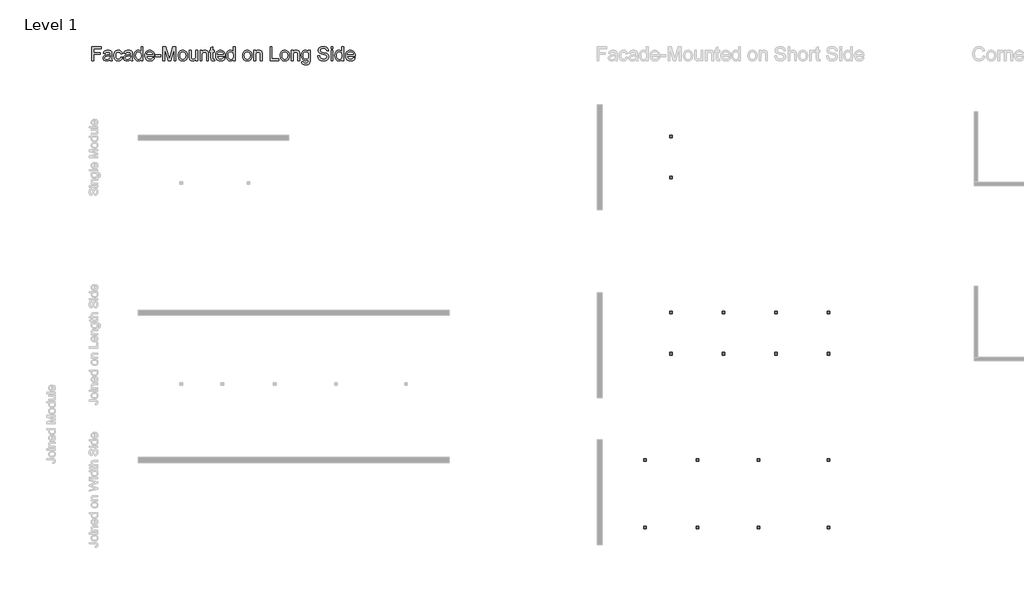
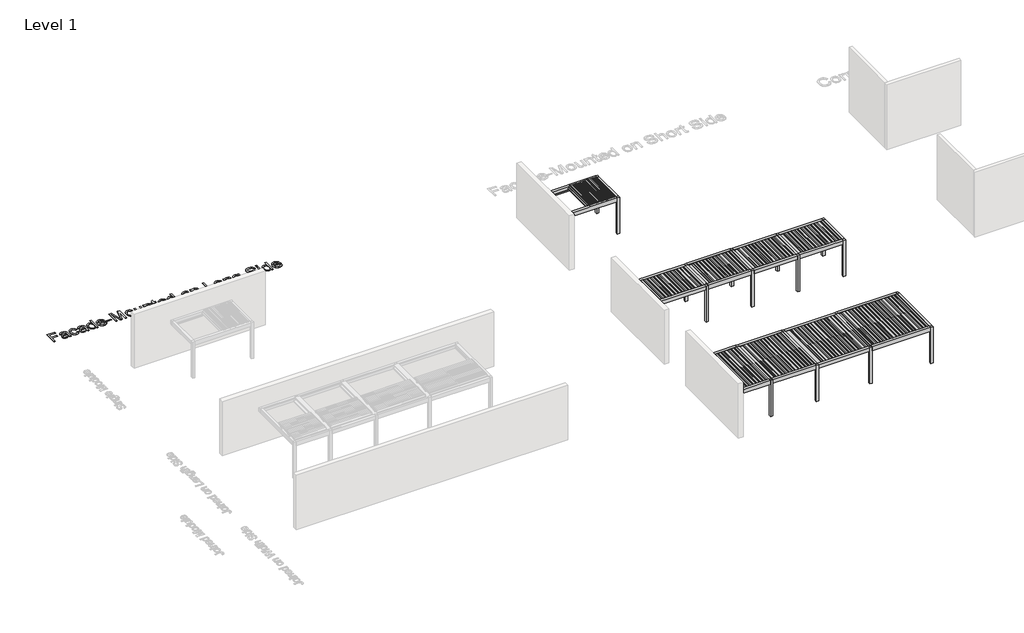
# One storey, part 19 of 69: 4 proxies.
"""IFC4 building model written with IfcOpenShell, lengths in millimetres."""

from ifc_helpers import new_model, si_unit, origin, origin_with_axes, place, context, project, spatial, polyline, outline, extrude, transform, mapped, element, save
from components import generic_models_a303e51f, generic_models_63c2b022, generic_models_a743d6f9, generic_models_ba1bd23f, generic_models_b816ea3c

model = new_model("IFC4")

# Units and contexts
model_context = context("Model", 3, world=origin())
ifc_project = project(units=[si_unit("LENGTHUNIT", "METRE", prefix="MILLI")], contexts=[model_context])

# Site, building, storey
site = spatial("IfcSite", under=ifc_project)
building = spatial("IfcBuilding", under=site)
storey = spatial("IfcBuildingStorey", under=building, Name="Level 1", Elevation=0.0)

# Proxies
placement = place(None, origin())
generic_models_shape = generic_models_a303e51f(model_context)
element("IfcBuildingElementProxy", 1, Name="Renson_Camargue_Skye_Facade-Mounted_Patio covers : Renson_Camargue_Skye_Facade-Mounted_Patio covers", ObjectType="Renson_Camargue_Skye_Facade-Mounted_Patio covers : Renson_Camargue_Skye_Facade-Mounted_Patio covers", at=placement, inside=storey, context=model_context, shape_type="MappedRepresentation", body=[
    mapped(generic_models_shape, transform((113691.3468184, -10675.9863343, 0.0), x_axis=(1.0, 0.0, 0.0), y_axis=(0.0, 1.0, 0.0), z_axis=(0.0, 0.0, 1.0))),
])
generic_models_2_shape = generic_models_63c2b022(model_context)
generic_models_3_shape = generic_models_a743d6f9(model_context)
element("IfcBuildingElementProxy", 2, Name="Renson_Camargue_Skye_Facade-Mounted_Patio covers : Renson_Camargue_Skye_Facade-Mounted_Patio covers", ObjectType="Renson_Camargue_Skye_Facade-Mounted_Patio covers : Renson_Camargue_Skye_Facade-Mounted_Patio covers", at=placement, inside=storey, context=model_context, shape_type="MappedRepresentation", body=[
    mapped(generic_models_2_shape, transform((113691.3468184, -20745.9863343, 0.0), x_axis=(1.0, 0.0, 0.0), y_axis=(0.0, 1.0, 0.0), z_axis=(0.0, 0.0, 1.0))),
    mapped(generic_models_3_shape, transform((113691.3468184, -20745.9863343, 0.0), x_axis=(1.0, 0.0, 0.0), y_axis=(0.0, 1.0, 0.0), z_axis=(0.0, 0.0, 1.0))),
])
generic_models_4_shape = generic_models_ba1bd23f(model_context)
generic_models_5_shape = generic_models_b816ea3c(model_context)
element("IfcBuildingElementProxy", 3, Name="Renson_Camargue_Skye_Facade-Mounted_Patio covers : Renson_Camargue_Skye_Facade-Mounted_Patio covers", ObjectType="Renson_Camargue_Skye_Facade-Mounted_Patio covers : Renson_Camargue_Skye_Facade-Mounted_Patio covers", at=placement, inside=storey, context=model_context, shape_type="MappedRepresentation", body=[
    mapped(generic_models_4_shape, transform((112941.3468184, -29920.5588086, 0.0), x_axis=(1.0, 0.0, 0.0), y_axis=(0.0, 1.0, 0.0), z_axis=(0.0, 0.0, 1.0))),
    mapped(generic_models_5_shape, transform((112941.3468184, -29920.5588086, 0.0), x_axis=(1.0, 0.0, 0.0), y_axis=(0.0, 1.0, 0.0), z_axis=(0.0, 0.0, 1.0))),
])
element("IfcBuildingElementProxy", 4, Name="800mm Arial", ObjectType="800mm Arial", at=placement, inside=storey, context=model_context, shape_type="SweptSolid", body=[
    extrude(outline(polyline([(82503.9214957, -5171.4138599), (82503.9214957, -4372.0251615), (83041.0107774, -4372.0251615), (83041.0107774, -4471.9487488), (82603.845083, -4471.9487488), (82603.845083, -4709.2672686), (82978.5585353, -4709.2672686), (82978.5585353, -4809.1908559), (82603.845083, -4809.1908559), (82603.845083, -5171.4138599), (82503.9214957, -5171.4138599)])), origin_with_axes(), (0.0, 0.0, 1.0), 5.0),
    extrude(outline(polyline([(83540.6287139, -5096.4711694), (83492.8869023, -5137.4066624), (83468.4853964, -5152.5684079), (83443.730157, -5164.1928194), (83392.0362895, -5178.9764361), (83336.6831109, -5183.9043083), (83292.1919873, -5180.9402663), (83253.1776325, -5172.0481404), (83219.6400467, -5157.2279307), (83191.5792297, -5136.479637), (83169.4221013, -5111.1206113), (83153.595581, -5082.4682057), (83144.0996688, -5050.5224202), (83140.9343647, -5015.2832547), (83145.7158645, -4973.8598535), (83160.0603638, -4936.2421359), (83182.186998, -4904.0401986), (83210.3149024, -4878.8641385), (83243.3706789, -4859.835721), (83280.2809298, -4846.0767114), (83366.7382524, -4831.0491406), (83468.9062171, -4815.2409169), (83540.0432241, -4796.7004075), (83540.6287139, -4774.4517963), (83538.9088377, -4750.2271571), (83533.7492091, -4729.8569922), (83525.1498281, -4713.3413016), (83513.1106947, -4700.6800854), (83492.3014125, -4688.0432645), (83466.9545846, -4679.0169639), (83437.0702109, -4673.6011835), (83402.6482916, -4671.7959234), (83343.1234984, -4676.6018186), (83320.0942341, -4682.6091876), (83301.5537247, -4691.0195042), (83286.318793, -4702.4914443), (83273.2062617, -4717.6836841), (83262.2161309, -4736.5962234), (83253.3484004, -4759.2290623), (83153.4248131, -4746.7386139), (83170.7699475, -4692.0929021), (83182.6444119, -4669.1612194), (83196.6534744, -4649.1569857), (83213.4009213, -4631.6776765), (83233.4905391, -4616.3207678), (83256.9223275, -4603.0862594), (83283.6962868, -4591.9741515), (83345.0995263, -4576.89779), (83415.5290665, -4571.8723361), (83483.0799486, -4576.3123002), (83536.6278671, -4589.6321924), (83577.0022658, -4609.6608216), (83605.0325885, -4634.2269965), (83623.6218887, -4664.5992783), (83635.6732197, -4702.0462281), (83639.3325308, -4736.5901245), (83640.5523012, -4789.479367), (83640.5523012, -4913.7983614), (83641.8208623, -5022.0895733), (83645.6265458, -5087.396078), (83653.1403312, -5130.307599), (83665.533198, -5171.4138599), (83565.6096107, -5171.4138599), (83549.6062237, -5136.6748002), (83540.6287139, -5096.4711694)]), holes=[polyline([(83540.6287139, -4896.6239948), (83473.4925536, -4913.2616624), (83379.4238641, -4927.2646261), (83327.5836241, -4934.9247839), (83293.4544496, -4943.4631764), (83271.0838613, -4954.5386912), (83254.5193799, -4969.810216), (83244.273309, -4988.1067713), (83240.857952, -5008.2573775), (83242.7181018, -5023.7850541), (83248.2985511, -5037.9709833), (83257.5993001, -5050.8151651), (83270.6203486, -5062.3175995), (83287.2397196, -5071.7952152), (83307.3354362, -5078.5649406), (83357.9559058, -5083.980721), (83411.6258014, -5078.0038463), (83436.11879, -5070.5327528), (83459.0504727, -5060.0732221), (83497.4976342, -5033.6529962), (83524.2350003, -5002.2073165), (83536.0911682, -4969.810216), (83540.0432241, -4924.922667), (83540.6287139, -4896.6239948)])]), origin_with_axes(), (0.0, 0.0, 1.0), 5.0),
    extrude(outline(polyline([(84152.660686, -4959.0762369), (84252.5842733, -4971.5666853), (84241.7161195, -5018.7169083), (84224.7247185, -5060.4391532), (84201.6100703, -5096.73342), (84172.3721749, -5127.5997088), (84138.2430005, -5152.2329711), (84100.4545149, -5169.8281584), (84059.0067184, -5180.3852708), (84013.8996107, -5183.9043083), (83957.8572619, -5178.9947326), (83907.6088222, -5164.2660056), (83863.1542917, -5139.7181273), (83824.4936703, -5105.3510976), (83793.2004619, -5061.8113948), (83770.8481702, -5009.7454973), (83757.4367952, -4949.153405), (83752.9663369, -4880.035118), (83754.8752775, -4834.0924677), (83760.6020993, -4791.1138593), (83770.1468023, -4751.0992929), (83783.5093865, -4714.0487684), (83800.7813347, -4680.7063458), (83822.0541296, -4651.816085), (83847.3277713, -4627.377986), (83876.6022598, -4607.3920488), (83908.5541442, -4591.8521745), (83941.8599737, -4580.7522643), (83976.5197482, -4574.0923182), (84012.5334679, -4571.8723361), (84056.8660214, -4574.921762), (84096.9659717, -4584.0700396), (84132.8333189, -4599.317169), (84164.468063, -4620.6631502), (84191.3335051, -4647.620075), (84212.892946, -4679.7000353), (84229.146386, -4716.903031), (84240.0938249, -4759.2290623), (84140.1702376, -4771.7195107), (84132.3698062, -4748.379205), (84122.0444502, -4728.1249183), (84109.1941695, -4710.9566506), (84093.8189642, -4696.8744019), (84076.3091608, -4685.9025675), (84057.0550858, -4678.065543), (84036.0567392, -4673.3633283), (84013.3141209, -4671.7959234), (83979.3618132, -4674.8819424), (83948.7394785, -4684.1399994), (83921.4471168, -4699.5700943), (83897.4847282, -4721.1722273), (83877.9745015, -4749.4465041), (83864.0386252, -4784.8930305), (83855.6770994, -4827.5118066), (83852.8899242, -4877.3028324), (83855.6161109, -4927.844017), (83863.7946711, -4970.9568001), (83877.4256048, -5006.6411818), (83896.508912, -5034.897162), (83919.9955901, -5056.3712191), (83946.8366367, -5071.7098312), (83977.0320518, -5080.9129985), (84010.5818353, -5083.980721), (84037.6180452, -5082.0656815), (84062.3244937, -5076.3205632), (84084.7011808, -5066.7453659), (84104.7481066, -5053.3400897), (84121.9041766, -5035.9583622), (84135.6082965, -5014.4538109), (84145.8604663, -4988.8264358), (84152.660686, -4959.0762369)])), origin_with_axes(), (0.0, 0.0, 1.0), 5.0),
    extrude(outline(polyline([(84714.7308646, -5096.4711694), (84666.9890529, -5137.4066624), (84642.587547, -5152.5684079), (84617.8323077, -5164.1928194), (84566.1384402, -5178.9764361), (84510.7852616, -5183.9043083), (84466.294138, -5180.9402663), (84427.2797832, -5172.0481404), (84393.7421974, -5157.2279307), (84365.6813804, -5136.479637), (84343.524252, -5111.1206113), (84327.6977316, -5082.4682057), (84318.2018194, -5050.5224202), (84315.0365154, -5015.2832547), (84319.8180152, -4973.8598535), (84334.1625145, -4936.2421359), (84356.2891487, -4904.0401986), (84384.417053, -4878.8641385), (84417.4728296, -4859.835721), (84454.3830805, -4846.0767114), (84540.8404031, -4831.0491406), (84643.0083678, -4815.2409169), (84714.1453748, -4796.7004075), (84714.7308646, -4774.4517963), (84713.0109884, -4750.2271571), (84707.8513598, -4729.8569922), (84699.2519788, -4713.3413016), (84687.2128454, -4700.6800854), (84666.4035632, -4688.0432645), (84641.0567352, -4679.0169639), (84611.1723616, -4673.6011835), (84576.7504423, -4671.7959234), (84517.225649, -4676.6018186), (84494.1963848, -4682.6091876), (84475.6558754, -4691.0195042), (84460.4209437, -4702.4914443), (84447.3084124, -4717.6836841), (84436.3182815, -4736.5962234), (84427.4505511, -4759.2290623), (84327.5269638, -4746.7386139), (84344.8720982, -4692.0929021), (84356.7465626, -4669.1612194), (84370.7556251, -4649.1569857), (84387.503072, -4631.6776765), (84407.5926897, -4616.3207678), (84431.0244782, -4603.0862594), (84457.7984375, -4591.9741515), (84519.201677, -4576.89779), (84589.6312172, -4571.8723361), (84657.1820993, -4576.3123002), (84710.7300178, -4589.6321924), (84751.1044165, -4609.6608216), (84779.1347392, -4634.2269965), (84797.7240393, -4664.5992783), (84809.7753704, -4702.0462281), (84813.4346815, -4736.5901245), (84814.6544518, -4789.479367), (84814.6544518, -4913.7983614), (84815.923013, -5022.0895733), (84819.7286965, -5087.396078), (84827.2424819, -5130.307599), (84839.6353487, -5171.4138599), (84739.7117614, -5171.4138599), (84723.7083743, -5136.6748002), (84714.7308646, -5096.4711694)]), holes=[polyline([(84714.7308646, -4896.6239948), (84647.5947043, -4913.2616624), (84553.5260147, -4927.2646261), (84501.6857748, -4934.9247839), (84467.5566003, -4943.4631764), (84445.186012, -4954.5386912), (84428.6215306, -4969.810216), (84418.3754597, -4988.1067713), (84414.9601027, -5008.2573775), (84416.8202525, -5023.7850541), (84422.4007018, -5037.9709833), (84431.7014508, -5050.8151651), (84444.7224993, -5062.3175995), (84461.3418703, -5071.7952152), (84481.4375869, -5078.5649406), (84532.0580565, -5083.980721), (84585.7279521, -5078.0038463), (84610.2209407, -5070.5327528), (84633.1526234, -5060.0732221), (84671.5997849, -5033.6529962), (84698.337151, -5002.2073165), (84710.1933188, -4969.810216), (84714.1453748, -4924.922667), (84714.7308646, -4896.6239948)])]), origin_with_axes(), (0.0, 0.0, 1.0), 5.0),
    extrude(outline(polyline([(85314.2723883, -5171.4138599), (85314.2723883, -5077.150007), (85284.375817, -5123.8550138), (85267.0581274, -5142.2034093), (85248.1608352, -5157.215733), (85227.6839404, -5168.8919847), (85205.627443, -5177.2321644), (85181.991343, -5182.2362723), (85156.7756404, -5183.9043083), (85123.79305, -5181.489163), (85092.1766025, -5174.2437271), (85061.9262977, -5162.1680006), (85033.0421358, -5145.2619835), (85006.4267467, -5124.0318805), (84982.9827605, -5098.9838963), (84962.7101773, -5070.1180309), (84945.6089969, -5037.4342843), (84932.0329529, -5001.5547394), (84922.3357786, -4963.101479), (84916.517474, -4922.0745032), (84914.5780391, -4878.473812), (84916.3650027, -4835.6720703), (84921.7258934, -4794.8951474), (84930.6607112, -4756.1430433), (84943.1694562, -4719.415758), (84959.2460295, -4685.7866893), (84978.8843321, -4656.3292353), (85002.0843642, -4631.0433959), (85028.8461258, -4609.9291711), (85058.2242947, -4593.2793058), (85089.2735491, -4581.3865449), (85121.9938888, -4574.2508883), (85156.3853139, -4571.8723361), (85181.5369785, -4573.5739158), (85205.2737096, -4578.6786547), (85227.595507, -4587.1865529), (85248.5023709, -4599.0976104), (85285.1442723, -4630.3969176), (85314.2723883, -4669.8442908), (85314.2723883, -4372.0251615), (85414.1959756, -4372.0251615), (85414.1959756, -5171.4138599), (85314.2723883, -5171.4138599)]), holes=[polyline([(85014.5016264, -4878.0834854), (85017.3192959, -4926.5388627), (85025.7723045, -4968.4684686), (85039.8606521, -5003.8723031), (85059.5843387, -5032.7503662), (85083.1381042, -5055.1636464), (85108.7166885, -5071.1731323), (85136.3200916, -5080.7788238), (85165.9483134, -5083.980721), (85195.7168089, -5080.9251963), (85223.155543, -5071.758622), (85248.2645157, -5056.4809984), (85271.043727, -5035.0923252), (85289.9562663, -5007.4218348), (85303.465223, -4973.2987592), (85311.570597, -4932.7230984), (85314.2723883, -4885.6948524), (85311.5218062, -4834.1351596), (85303.2700597, -4789.9184844), (85289.517149, -4753.0448266), (85270.263074, -4723.5141864), (85246.9837568, -4700.8874463), (85221.1551196, -4684.7254891), (85192.7771623, -4675.0283148), (85161.849885, -4671.7959234), (85131.6361734, -4674.9002389), (85104.0327703, -4684.2131856), (85079.0396758, -4699.7347633), (85056.6568898, -4721.4649722), (85038.2139621, -4749.8795225), (85025.0404423, -4785.4541249), (85017.1363304, -4828.1887792), (85014.5016264, -4878.0834854)])]), origin_with_axes(), (0.0, 0.0, 1.0), 5.0),
    extrude(outline(polyline([(85975.0951746, -4996.5475821), (86073.0671293, -5009.0380305), (86058.0456574, -5048.2780428), (86037.7669753, -5082.8585323), (86012.231083, -5112.779499), (85981.4379804, -5138.040943), (85945.7048079, -5158.1061653), (85905.3487058, -5172.438467), (85860.3696741, -5181.0378479), (85810.7677127, -5183.9043083), (85748.7667856, -5178.9581395), (85693.5233864, -5164.1196332), (85645.0375148, -5139.3887893), (85603.3091711, -5104.7656078), (85569.7532887, -5061.2137074), (85545.7848013, -5009.6967065), (85531.4037088, -4950.2146053), (85526.6100113, -4882.7674036), (85531.4524996, -4813.0331325), (85545.9799645, -4751.5689045), (85570.192406, -4698.3747194), (85585.930493, -4674.878893), (85604.0898241, -4653.4505773), (85645.7083885, -4617.7600968), (85693.084269, -4592.2668964), (85746.2174656, -4576.9709762), (85805.1079782, -4571.8723361), (85862.101748, -4576.9587785), (85913.6431442, -4592.2181056), (85959.732167, -4617.6503174), (86000.3688163, -4653.255414), (86033.540471, -4698.0819745), (86057.2345101, -4751.178578), (86071.4509336, -4812.5452244), (86076.1897414, -4882.1819138), (86075.6042516, -4909.1144432), (85626.5335986, -4909.1144432), (85632.3214089, -4948.9887361), (85643.8299422, -4983.9107612), (85661.0591984, -5013.8805188), (85684.0091776, -5038.8980087), (85711.4113186, -5058.6216954), (85741.9970602, -5072.7100429), (85775.7664024, -5081.1630515), (85812.7193452, -5083.980721), (85865.9013326, -5078.7601039), (85910.6913, -5063.0982525), (85929.9392761, -5051.10791), (85947.0892473, -5036.0193507), (85962.1412134, -5017.8325748), (85975.0951746, -4996.5475821)]), holes=[polyline([(85626.5335986, -4809.1908559), (85976.2661541, -4809.1908559), (85971.1309209, -4780.9165792), (85962.7510986, -4756.3991951), (85951.1266872, -4735.6387037), (85936.2576866, -4718.6351049), (85909.0080169, -4698.142963), (85878.0014545, -4683.5057188), (85843.2379995, -4674.7233722), (85804.7176517, -4671.7959234), (85769.5821667, -4674.1317836), (85737.3619328, -4681.1393643), (85708.0569501, -4692.8186654), (85681.6672185, -4709.169687), (85659.5222878, -4729.4361714), (85642.9517075, -4752.861861), (85631.9554778, -4779.4467559), (85626.5335986, -4809.1908559)])]), origin_with_axes(), (0.0, 0.0, 1.0), 5.0),
    extrude(outline(polyline([(86126.1515351, -4934.09534), (86126.1515351, -4834.1717528), (86438.4127454, -4834.1717528), (86438.4127454, -4934.09534), (86126.1515351, -4934.09534)])), origin_with_axes(), (0.0, 0.0, 1.0), 5.0),
    extrude(outline(polyline([(86563.3172295, -5171.4138599), (86563.3172295, -4372.0251615), (86735.2560584, -4372.0251615), (86898.8028673, -4935.4614828), (86931.7854576, -5053.1449265), (86967.5003335, -4925.70332), (87128.3148568, -4372.0251615), (87300.2536858, -4372.0251615), (87300.2536858, -5171.4138599), (87200.3300985, -5171.4138599), (87200.3300985, -4471.9487488), (86999.5071076, -5171.4138599), (86864.0638076, -5171.4138599), (86663.2408168, -4471.9487488), (86663.2408168, -5171.4138599), (86563.3172295, -5171.4138599)])), origin_with_axes(), (0.0, 0.0, 1.0), 5.0),
    extrude(outline(polyline([(87437.6486183, -4877.8883222), (87443.0522009, -4801.8600361), (87449.8066793, -4767.7888007), (87459.2629489, -4736.3461705), (87471.4210099, -4707.5321453), (87486.2808622, -4681.3467253), (87503.8425059, -4657.7899103), (87524.1059409, -4636.8617005), (87562.1871713, -4608.4288536), (87604.2204576, -4588.1196772), (87650.2057999, -4575.9341714), (87700.1431982, -4571.8723361), (87755.2707193, -4576.8185049), (87805.1166347, -4591.6570112), (87849.6809446, -4616.3878551), (87888.9636488, -4651.0110366), (87921.0253125, -4694.3555761), (87943.9265009, -4745.250494), (87957.6672139, -4803.6957905), (87962.2474516, -4869.6914654), (87960.2226328, -4923.1783954), (87954.1481764, -4970.6396598), (87944.0240825, -5012.0752587), (87929.850351, -5047.485192), (87911.8038486, -5078.0709336), (87890.0614421, -5105.0339573), (87864.6231314, -5128.374263), (87835.4889165, -5148.0918507), (87803.7931839, -5163.7598009), (87770.67032, -5174.9511939), (87736.1203247, -5181.6660297), (87700.1431982, -5183.9043083), (87644.2106287, -5178.9764361), (87593.9012005, -5164.1928194), (87549.2149136, -5139.5534583), (87510.151768, -5105.0583527), (87478.43164, -5061.2929924), (87455.7744057, -5008.8428673), (87442.1800651, -4947.7079772), (87437.6486183, -4877.8883222)]), holes=[polyline([(87537.5722056, -4877.6931589), (87540.4630613, -4926.1607339), (87549.1356285, -4968.1269329), (87563.5899072, -5003.5917559), (87583.8258973, -5032.5552029), (87608.4408631, -5055.0538671), (87636.0320684, -5071.1243415), (87666.5995135, -5080.7666261), (87700.1431982, -5083.980721), (87733.516115, -5080.7483295), (87763.961583, -5071.0511552), (87791.4796022, -5054.8891981), (87816.0701725, -5032.262458), (87836.3061627, -5003.012365), (87850.7604413, -4966.9803488), (87859.4330085, -4924.1664094), (87862.3238643, -4874.5705468), (87859.414712, -4827.6398825), (87850.6872551, -4786.7714768), (87836.1414937, -4751.9653298), (87815.7774276, -4723.2214415), (87791.0953745, -4700.7227773), (87763.5956519, -4684.6523029), (87733.2782598, -4675.0100183), (87700.1431982, -4671.7959234), (87666.5995135, -4674.9978206), (87636.0320684, -4684.6035121), (87608.4408631, -4700.612998), (87583.8258973, -4723.0262782), (87563.5899072, -4751.9043413), (87549.1356285, -4787.3081758), (87540.4630613, -4829.2377817), (87537.5722056, -4877.6931589)])]), origin_with_axes(), (0.0, 0.0, 1.0), 5.0),
    extrude(outline(polyline([(88449.3749396, -5171.4138599), (88449.3749396, -5070.5144563), (88432.0420029, -5097.0902028), (88413.2209464, -5120.1225165), (88392.91177, -5139.6113973), (88371.1144738, -5155.5568453), (88347.8290578, -5167.9588603), (88323.0555219, -5176.8174425), (88296.7938662, -5182.1325918), (88269.0440907, -5183.9043083), (88220.3752536, -5178.9276452), (88175.0729827, -5163.9976561), (88137.0649385, -5141.5538816), (88110.2787816, -5114.0358625), (88092.2505758, -5080.6141548), (88080.516385, -5040.4593148), (88076.1252117, -5002.5976431), (88074.6614873, -4947.5616047), (88074.6614873, -4584.3627845), (88174.5850746, -4584.3627845), (88174.5850746, -4900.5272599), (88176.0975898, -4963.760155), (88180.6351355, -5002.4024798), (88186.6181091, -5020.4123891), (88195.1991935, -5036.3852818), (88206.3783888, -5050.3211581), (88220.1556949, -5062.2200179), (88236.11639, -5071.7403255), (88253.8457521, -5078.5405452), (88294.6104773, -5083.980721), (88337.7171615, -5078.4185682), (88378.0427694, -5061.7321098), (88396.0892718, -5049.6014936), (88411.2937092, -5035.4582564), (88423.6560817, -5019.302398), (88433.1763893, -5001.1339186), (88445.325302, -4954.1239692), (88449.3749396, -4889.7932808), (88449.3749396, -4584.3627845), (88549.2985269, -4584.3627845), (88549.2985269, -5171.4138599), (88449.3749396, -5171.4138599)])), origin_with_axes(), (0.0, 0.0, 1.0), 5.0),
    extrude(outline(polyline([(88686.6934594, -5171.4138599), (88686.6934594, -4584.3627845), (88786.6170467, -4584.3627845), (88786.6170467, -4666.3313522), (88803.102243, -4644.1925203), (88821.331711, -4625.0055327), (88841.3054505, -4608.7703893), (88863.0234616, -4595.4870901), (88886.4857444, -4585.1556352), (88911.6922987, -4577.7760246), (88967.3382222, -4571.8723361), (89016.592549, -4576.6294405), (89061.6996567, -4590.9007536), (89099.3173743, -4612.9054108), (89126.1035313, -4640.8625473), (89144.2781095, -4674.6989768), (89156.0610912, -4714.3415133), (89160.0131471, -4752.2519759), (89161.3304991, -4810.9473252), (89161.3304991, -5171.4138599), (89061.4069118, -5171.4138599), (89061.4069118, -4824.4135899), (89058.5282538, -4772.7441178), (89049.8922797, -4736.0046348), (89033.9620789, -4709.6819906), (89009.2007407, -4689.2630349), (88977.4623161, -4676.1627013), (88940.6008561, -4671.7959234), (88910.2590685, -4674.2476618), (88882.0762745, -4681.602877), (88856.0524741, -4693.8615691), (88832.1876671, -4711.0237379), (88812.2505207, -4735.0410162), (88798.0097018, -4767.8650364), (88789.4652105, -4809.4957985), (88786.6170467, -4859.9333026), (88786.6170467, -5171.4138599), (88686.6934594, -5171.4138599)])), origin_with_axes(), (0.0, 0.0, 1.0), 5.0),
    extrude(outline(polyline([(89511.0630546, -5088.0791494), (89523.553503, -5174.3413087), (89483.9841528, -5181.5135584), (89448.8059758, -5183.9043083), (89400.8446055, -5179.7570891), (89365.0809388, -5167.3154315), (89339.8072971, -5148.1406415), (89323.3160019, -5123.7940253), (89314.2409105, -5081.9802976), (89311.21588, -5010.4041733), (89311.21588, -4684.2863718), (89236.2731895, -4684.2863718), (89236.2731895, -4584.3627845), (89311.21588, -4584.3627845), (89311.21588, -4441.6984441), (89411.1394673, -4382.9543039), (89411.1394673, -4584.3627845), (89511.0630546, -4584.3627845), (89511.0630546, -4684.2863718), (89411.1394673, -4684.2863718), (89411.1394673, -5007.4767245), (89412.4568193, -5040.3617332), (89416.4088752, -5058.9998242), (89423.3127754, -5069.3190813), (89433.4856602, -5077.2475886), (89447.9033457, -5082.2974379), (89467.5416484, -5083.980721), (89511.0630546, -5088.0791494)])), origin_with_axes(), (0.0, 0.0, 1.0), 5.0),
    extrude(outline(polyline([(90022.0004599, -4996.5475821), (90119.9724147, -5009.0380305), (90104.9509428, -5048.2780428), (90084.6722607, -5082.8585323), (90059.1363683, -5112.779499), (90028.3432658, -5138.040943), (89992.6100933, -5158.1061653), (89952.2539912, -5172.438467), (89907.2749594, -5181.0378479), (89857.672998, -5183.9043083), (89795.672071, -5178.9581395), (89740.4286717, -5164.1196332), (89691.9428002, -5139.3887893), (89650.2144564, -5104.7656078), (89616.658574, -5061.2137074), (89592.6900866, -5009.6967065), (89578.3089941, -4950.2146053), (89573.5152967, -4882.7674036), (89578.357785, -4813.0331325), (89592.8852499, -4751.5689045), (89617.0976914, -4698.3747194), (89632.8357783, -4674.878893), (89650.9951095, -4653.4505773), (89692.6136739, -4617.7600968), (89739.9895544, -4592.2668964), (89793.122751, -4576.9709762), (89852.0132636, -4571.8723361), (89909.0070333, -4576.9587785), (89960.5484296, -4592.2181056), (90006.6374523, -4617.6503174), (90047.2741016, -4653.255414), (90080.4457564, -4698.0819745), (90104.1397955, -4751.178578), (90118.356219, -4812.5452244), (90123.0950268, -4882.1819138), (90122.509537, -4909.1144432), (89673.438884, -4909.1144432), (89679.2266943, -4948.9887361), (89690.7352276, -4983.9107612), (89707.9644838, -5013.8805188), (89730.914463, -5038.8980087), (89758.3166039, -5058.6216954), (89788.9023455, -5072.7100429), (89822.6716878, -5081.1630515), (89859.6246306, -5083.980721), (89912.806618, -5078.7601039), (89957.5965853, -5063.0982525), (89976.8445615, -5051.10791), (89993.9945326, -5036.0193507), (90009.0464988, -5017.8325748), (90022.0004599, -4996.5475821)]), holes=[polyline([(89673.438884, -4809.1908559), (90023.1714395, -4809.1908559), (90018.0362063, -4780.9165792), (90009.656384, -4756.3991951), (89998.0319725, -4735.6387037), (89983.1629719, -4718.6351049), (89955.9133022, -4698.142963), (89924.9067399, -4683.5057188), (89890.1432848, -4674.7233722), (89851.6229371, -4671.7959234), (89816.4874521, -4674.1317836), (89784.2672182, -4681.1393643), (89754.9622355, -4692.8186654), (89728.5725039, -4709.169687), (89706.4275731, -4729.4361714), (89689.8569929, -4752.861861), (89678.8607632, -4779.4467559), (89673.438884, -4809.1908559)])]), origin_with_axes(), (0.0, 0.0, 1.0), 5.0),
    extrude(outline(polyline([(90585.241618, -5171.4138599), (90585.241618, -5077.150007), (90555.3450467, -5123.8550138), (90538.0273571, -5142.2034093), (90519.1300649, -5157.215733), (90498.6531701, -5168.8919847), (90476.5966727, -5177.2321644), (90452.9605727, -5182.2362723), (90427.7448701, -5183.9043083), (90394.7622797, -5181.489163), (90363.1458322, -5174.2437271), (90332.8955274, -5162.1680006), (90304.0113655, -5145.2619835), (90277.3959764, -5124.0318805), (90253.9519902, -5098.9838963), (90233.6794069, -5070.1180309), (90216.5782266, -5037.4342843), (90203.0021826, -5001.5547394), (90193.3050083, -4963.101479), (90187.4867037, -4922.0745032), (90185.5472688, -4878.473812), (90187.3342324, -4835.6720703), (90192.6951231, -4794.8951474), (90201.6299409, -4756.1430433), (90214.1386859, -4719.415758), (90230.2152591, -4685.7866893), (90249.8535618, -4656.3292353), (90273.0535939, -4631.0433959), (90299.8153555, -4609.9291711), (90329.1935244, -4593.2793058), (90360.2427787, -4581.3865449), (90392.9631185, -4574.2508883), (90427.3545435, -4571.8723361), (90452.5062082, -4573.5739158), (90476.2429393, -4578.6786547), (90498.5647367, -4587.1865529), (90519.4716006, -4599.0976104), (90556.113502, -4630.3969176), (90585.241618, -4669.8442908), (90585.241618, -4372.0251615), (90685.1652053, -4372.0251615), (90685.1652053, -5171.4138599), (90585.241618, -5171.4138599)]), holes=[polyline([(90285.4708561, -4878.0834854), (90288.2885256, -4926.5388627), (90296.7415342, -4968.4684686), (90310.8298818, -5003.8723031), (90330.5535684, -5032.7503662), (90354.1073339, -5055.1636464), (90379.6859182, -5071.1731323), (90407.2893212, -5080.7788238), (90436.9175431, -5083.980721), (90466.6860386, -5080.9251963), (90494.1247727, -5071.758622), (90519.2337454, -5056.4809984), (90542.0129567, -5035.0923252), (90560.925496, -5007.4218348), (90574.4344527, -4973.2987592), (90582.5398267, -4932.7230984), (90585.241618, -4885.6948524), (90582.4910359, -4834.1351596), (90574.2392894, -4789.9184844), (90560.4863787, -4753.0448266), (90541.2323037, -4723.5141864), (90517.9529865, -4700.8874463), (90492.1243493, -4684.7254891), (90463.746392, -4675.0283148), (90432.8191147, -4671.7959234), (90402.6054031, -4674.9002389), (90375.002, -4684.2131856), (90350.0089055, -4699.7347633), (90327.6261195, -4721.4649722), (90309.1831918, -4749.8795225), (90296.009672, -4785.4541249), (90288.1055601, -4828.1887792), (90285.4708561, -4878.0834854)])]), origin_with_axes(), (0.0, 0.0, 1.0), 5.0),
    extrude(outline(polyline([(91122.3308997, -4877.8883222), (91127.7344824, -4801.8600361), (91134.4889607, -4767.7888007), (91143.9452303, -4736.3461705), (91156.1032913, -4707.5321453), (91170.9631437, -4681.3467253), (91188.5247873, -4657.7899103), (91208.7882223, -4636.8617005), (91246.8694527, -4608.4288536), (91288.9027391, -4588.1196772), (91334.8880814, -4575.9341714), (91384.8254796, -4571.8723361), (91439.9530007, -4576.8185049), (91489.7989162, -4591.6570112), (91534.363226, -4616.3878551), (91573.6459302, -4651.0110366), (91605.7075939, -4694.3555761), (91628.6087823, -4745.250494), (91642.3494953, -4803.6957905), (91646.929733, -4869.6914654), (91644.9049142, -4923.1783954), (91638.8304578, -4970.6396598), (91628.7063639, -5012.0752587), (91614.5326324, -5047.485192), (91596.4861301, -5078.0709336), (91574.7437235, -5105.0339573), (91549.3054128, -5128.374263), (91520.1711979, -5148.0918507), (91488.4754653, -5163.7598009), (91455.3526014, -5174.9511939), (91420.8026062, -5181.6660297), (91384.8254796, -5183.9043083), (91328.8929101, -5178.9764361), (91278.5834819, -5164.1928194), (91233.897195, -5139.5534583), (91194.8340495, -5105.0583527), (91163.1139214, -5061.2929924), (91140.4566871, -5008.8428673), (91126.8623466, -4947.7079772), (91122.3308997, -4877.8883222)]), holes=[polyline([(91222.254487, -4877.6931589), (91225.1453427, -4926.1607339), (91233.8179099, -4968.1269329), (91248.2721886, -5003.5917559), (91268.5081788, -5032.5552029), (91293.1231445, -5055.0538671), (91320.7143499, -5071.1243415), (91351.2817949, -5080.7666261), (91384.8254796, -5083.980721), (91418.1983964, -5080.7483295), (91448.6438645, -5071.0511552), (91476.1618836, -5054.8891981), (91500.7524539, -5032.262458), (91520.9884441, -5003.012365), (91535.4427228, -4966.9803488), (91544.11529, -4924.1664094), (91547.0061457, -4874.5705468), (91544.0969934, -4827.6398825), (91535.3695365, -4786.7714768), (91520.8237751, -4751.9653298), (91500.459709, -4723.2214415), (91475.7776559, -4700.7227773), (91448.2779333, -4684.6523029), (91417.9605412, -4675.0100183), (91384.8254796, -4671.7959234), (91351.2817949, -4674.9978206), (91320.7143499, -4684.6035121), (91293.1231445, -4700.612998), (91268.5081788, -4723.0262782), (91248.2721886, -4751.9043413), (91233.8179099, -4787.3081758), (91225.1453427, -4829.2377817), (91222.254487, -4877.6931589)])]), origin_with_axes(), (0.0, 0.0, 1.0), 5.0),
    extrude(outline(polyline([(91759.3437687, -5171.4138599), (91759.3437687, -4584.3627845), (91859.267356, -4584.3627845), (91859.267356, -4666.3313522), (91875.7525523, -4644.1925203), (91893.9820202, -4625.0055327), (91913.9557597, -4608.7703893), (91935.6737709, -4595.4870901), (91959.1360536, -4585.1556352), (91984.3426079, -4577.7760246), (92039.9885314, -4571.8723361), (92089.2428583, -4576.6294405), (92134.3499659, -4590.9007536), (92171.9676836, -4612.9054108), (92198.7538405, -4640.8625473), (92216.9284188, -4674.6989768), (92228.7114004, -4714.3415133), (92232.6634564, -4752.2519759), (92233.9808083, -4810.9473252), (92233.9808083, -5171.4138599), (92134.057221, -5171.4138599), (92134.057221, -4824.4135899), (92131.178563, -4772.7441178), (92122.5425889, -4736.0046348), (92106.6123881, -4709.6819906), (92081.8510499, -4689.2630349), (92050.1126254, -4676.1627013), (92013.2511653, -4671.7959234), (91982.9093778, -4674.2476618), (91954.7265838, -4681.602877), (91928.7027833, -4693.8615691), (91904.8379764, -4711.0237379), (91884.9008299, -4735.0410162), (91870.6600111, -4767.8650364), (91862.1155198, -4809.4957985), (91859.267356, -4859.9333026), (91859.267356, -5171.4138599), (91759.3437687, -5171.4138599)])), origin_with_axes(), (0.0, 0.0, 1.0), 5.0),
    extrude(outline(polyline([(92696.1273996, -5171.4138599), (92696.1273996, -4372.0251615), (92796.0509869, -4372.0251615), (92796.0509869, -5071.4902726), (93195.745336, -5071.4902726), (93195.745336, -5171.4138599), (92696.1273996, -5171.4138599)])), origin_with_axes(), (0.0, 0.0, 1.0), 5.0),
    extrude(outline(polyline([(93270.6880265, -4877.8883222), (93276.0916092, -4801.8600361), (93282.8460875, -4767.7888007), (93292.3023571, -4736.3461705), (93304.4604181, -4707.5321453), (93319.3202705, -4681.3467253), (93336.8819141, -4657.7899103), (93357.1453491, -4636.8617005), (93395.2265795, -4608.4288536), (93437.2598659, -4588.1196772), (93483.2452082, -4575.9341714), (93533.1826064, -4571.8723361), (93588.3101275, -4576.8185049), (93638.1560429, -4591.6570112), (93682.7203528, -4616.3878551), (93722.003057, -4651.0110366), (93754.0647207, -4694.3555761), (93776.9659091, -4745.250494), (93790.7066221, -4803.6957905), (93795.2868598, -4869.6914654), (93793.262041, -4923.1783954), (93787.1875846, -4970.6396598), (93777.0634907, -5012.0752587), (93762.8897592, -5047.485192), (93744.8432568, -5078.0709336), (93723.1008503, -5105.0339573), (93697.6625396, -5128.374263), (93668.5283247, -5148.0918507), (93636.8325921, -5163.7598009), (93603.7097282, -5174.9511939), (93569.1597329, -5181.6660297), (93533.1826064, -5183.9043083), (93477.2500369, -5178.9764361), (93426.9406087, -5164.1928194), (93382.2543218, -5139.5534583), (93343.1911763, -5105.0583527), (93311.4710482, -5061.2929924), (93288.8138139, -5008.8428673), (93275.2194734, -4947.7079772), (93270.6880265, -4877.8883222)]), holes=[polyline([(93370.6116138, -4877.6931589), (93373.5024695, -4926.1607339), (93382.1750367, -4968.1269329), (93396.6293154, -5003.5917559), (93416.8653056, -5032.5552029), (93441.4802713, -5055.0538671), (93469.0714767, -5071.1243415), (93499.6389217, -5080.7666261), (93533.1826064, -5083.980721), (93566.5555232, -5080.7483295), (93597.0009912, -5071.0511552), (93624.5190104, -5054.8891981), (93649.1095807, -5032.262458), (93669.3455709, -5003.012365), (93683.7998495, -4966.9803488), (93692.4724168, -4924.1664094), (93695.3632725, -4874.5705468), (93692.4541202, -4827.6398825), (93683.7266633, -4786.7714768), (93669.1809019, -4751.9653298), (93648.8168358, -4723.2214415), (93624.1347827, -4700.7227773), (93596.6350601, -4684.6523029), (93566.317668, -4675.0100183), (93533.1826064, -4671.7959234), (93499.6389217, -4674.9978206), (93469.0714767, -4684.6035121), (93441.4802713, -4700.612998), (93416.8653056, -4723.0262782), (93396.6293154, -4751.9043413), (93382.1750367, -4787.3081758), (93373.5024695, -4829.2377817), (93370.6116138, -4877.6931589)])]), origin_with_axes(), (0.0, 0.0, 1.0), 5.0),
    extrude(outline(polyline([(93907.7008955, -5171.4138599), (93907.7008955, -4584.3627845), (94007.6244828, -4584.3627845), (94007.6244828, -4666.3313522), (94024.1096791, -4644.1925203), (94042.339147, -4625.0055327), (94062.3128865, -4608.7703893), (94084.0308977, -4595.4870901), (94107.4931804, -4585.1556352), (94132.6997347, -4577.7760246), (94188.3456582, -4571.8723361), (94237.5999851, -4576.6294405), (94282.7070927, -4590.9007536), (94320.3248104, -4612.9054108), (94347.1109673, -4640.8625473), (94365.2855456, -4674.6989768), (94377.0685272, -4714.3415133), (94381.0205831, -4752.2519759), (94382.3379351, -4810.9473252), (94382.3379351, -5171.4138599), (94282.4143478, -5171.4138599), (94282.4143478, -4824.4135899), (94279.5356898, -4772.7441178), (94270.8997157, -4736.0046348), (94254.9695149, -4709.6819906), (94230.2081767, -4689.2630349), (94198.4697522, -4676.1627013), (94161.6082921, -4671.7959234), (94131.2665046, -4674.2476618), (94103.0837106, -4681.602877), (94077.0599101, -4693.8615691), (94053.1951032, -4711.0237379), (94033.2579567, -4735.0410162), (94019.0171379, -4767.8650364), (94010.4726466, -4809.4957985), (94007.6244828, -4859.9333026), (94007.6244828, -5171.4138599), (93907.7008955, -5171.4138599)])), origin_with_axes(), (0.0, 0.0, 1.0), 5.0),
    extrude(outline(polyline([(94494.7519708, -5221.3756535), (94594.6755581, -5233.8661019), (94598.8959635, -5250.6989328), (94605.7022821, -5265.092223), (94615.0945138, -5277.0459724), (94627.0726587, -5286.5601812), (94646.4548096, -5296.2939486), (94669.0815496, -5303.2466396), (94724.0687971, -5308.8087924), (94755.2705228, -5307.2352886), (94782.7153557, -5302.5147774), (94806.4032959, -5294.6472586), (94826.3343435, -5283.6327323), (94842.9232203, -5269.7761411), (94856.5846483, -5253.3824276), (94867.3186274, -5234.4515917), (94875.1251576, -5212.9836335), (94880.540938, -5169.9989263), (94881.9558716, -5096.4711694), (94848.7049318, -5129.2585965), (94811.5995176, -5152.6781872), (94770.6396292, -5166.7299417), (94725.8252664, -5171.4138599), (94671.0392811, -5165.9614864), (94622.8034625, -5149.604366), (94601.1418657, -5137.3365256), (94581.1178107, -5122.3424986), (94545.9823256, -5084.1758842), (94518.1044742, -5038.3857052), (94498.1917232, -4988.2531437), (94486.2440726, -4933.7781998), (94482.2615224, -4874.9608733), (94484.048486, -4833.8119205), (94489.4093767, -4794.2852622), (94498.3441945, -4756.3808985), (94510.8529395, -4720.0988294), (94526.7465472, -4686.6466274), (94545.8359532, -4657.2318654), (94568.1211575, -4631.8545432), (94593.6021602, -4610.5146609), (94621.8703381, -4593.6086438), (94652.5170682, -4581.5329173), (94685.5423505, -4574.2874814), (94720.946185, -4571.8723361), (94767.6755872, -4577.3369073), (94810.0870024, -4593.7306208), (94848.1804305, -4621.0534767), (94881.9558716, -4659.305475), (94881.9558716, -4584.3627845), (94981.8794589, -4584.3627845), (94981.8794589, -5091.2017615), (94980.1717804, -5154.7091049), (94975.0487449, -5208.2265291), (94966.5103524, -5251.7540341), (94954.556603, -5285.29162), (94938.9008505, -5312.3400276), (94919.256449, -5336.3999978), (94895.6233984, -5357.4715306), (94868.0016988, -5375.5546261), (94836.6718972, -5390.0698933), (94801.914541, -5400.4379413), (94763.7296302, -5406.6587701), (94722.1171646, -5408.7323797), (94673.1616815, -5405.8110297), (94629.1462683, -5397.0469797), (94590.070925, -5382.4402297), (94555.9356517, -5361.9907798), (94528.3627429, -5335.6742344), (94508.9744931, -5303.4661982), (94497.7709025, -5265.3666713), (94494.7519708, -5221.3756535)]), holes=[polyline([(94582.1851097, -4868.1301594), (94584.8503079, -4917.5369575), (94592.8459026, -4959.7837037), (94606.1718937, -4994.8703979), (94624.8282812, -5022.7970401), (94647.509911, -5044.1003293), (94672.9116285, -5059.3169645), (94701.033434, -5068.4469455), (94731.8753274, -5071.4902726), (94762.4122782, -5068.4652421), (94790.3999089, -5059.3901507), (94815.8382196, -5044.2649983), (94838.7272103, -5023.089785), (94857.6397496, -4995.4375911), (94871.1487063, -4960.881497), (94879.2540803, -4919.4215027), (94881.9558716, -4871.0576082), (94879.1747952, -4824.7124337), (94870.831566, -4784.4295178), (94856.926184, -4750.2088605), (94837.4586491, -4722.0504619), (94814.0756515, -4700.0641013), (94788.4238809, -4684.359558), (94760.5033376, -4674.9368321), (94730.3140213, -4671.7959234), (94700.6309098, -4674.8880412), (94673.2531642, -4684.1643948), (94648.1807846, -4699.624984), (94625.413771, -4721.2698089), (94606.5012317, -4749.0012879), (94592.992275, -4782.7218393), (94584.886901, -4822.4314631), (94582.1851097, -4868.1301594)])]), origin_with_axes(), (0.0, 0.0, 1.0), 5.0),
    extrude(outline(polyline([(95419.0451533, -4896.6239948), (95518.9687406, -4896.6239948), (95530.4345819, -4952.074755), (95539.6438481, -4975.7200033), (95551.1706779, -4996.6451637), (95565.6005612, -5015.271057), (95583.5189876, -5032.018504), (95604.9259573, -5046.8875046), (95629.8214702, -5059.8780588), (95657.2906986, -5070.4229735), (95686.4188146, -5077.9550554), (95749.6517097, -5083.980721), (95805.3220286, -5079.4187799), (95854.0640519, -5065.7329565), (95893.5602159, -5044.069835), (95908.9720143, -5030.6767566), (95921.492957, -5015.5759996), (95938.1062292, -4982.8617587), (95943.6439866, -4948.537421), (95939.4967674, -4915.0913179), (95927.0551098, -4886.1827606), (95916.5894802, -4873.3568753), (95901.7814681, -4861.5190041), (95859.1382965, -4840.8073035), (95806.3710311, -4825.1210567), (95713.6440889, -4802.6528868), (95618.1360703, -4777.4036405), (95557.0255756, -4753.3741646), (95530.3430991, -4737.4561615), (95507.2833406, -4719.7572937), (95487.8463, -4700.2775611), (95472.0319774, -4679.0169639), (95459.7793842, -4656.1950606), (95451.0275319, -4632.0314099), (95445.7764206, -4606.5260118), (95444.0260501, -4579.6788664), (95446.1911425, -4549.9225686), (95452.6864196, -4521.1542848), (95463.5118815, -4493.3740151), (95478.6675281, -4466.5817593), (95497.9825917, -4441.8692119), (95521.2863043, -4420.3280675), (95548.5786659, -4401.958326), (95579.8596766, -4386.7599874), (95614.074235, -4374.8489299), (95650.1672397, -4366.3410317), (95688.1386908, -4361.2362928), (95727.9885882, -4359.5347131), (95771.4612036, -4361.3155778), (95812.299115, -4366.658172), (95850.5023224, -4375.5624955), (95886.0708259, -4388.0285486), (95918.3459495, -4403.9465517), (95946.6690171, -4423.2067255), (95971.0400287, -4445.8090702), (95991.4589844, -4471.7535856), (96007.767314, -4500.2840141), (96019.8064474, -4530.6440982), (96027.5763845, -4562.8338378), (96031.0771255, -4596.8532329), (95931.1535382, -4596.8532329), (95924.4691966, -4564.9684359), (95912.8081921, -4537.2308581), (95896.1705244, -4513.6404995), (95874.5561938, -4494.19736), (95847.5626759, -4478.9990215), (95814.7874465, -4468.1430653), (95776.2305057, -4461.6294916), (95731.8918533, -4459.4583004), (95686.1382674, -4461.6050962), (95647.0446276, -4468.0454837), (95614.6109339, -4478.7794628), (95588.8371864, -4493.8070335), (95569.1988837, -4511.8718325), (95555.1715246, -4531.7174961), (95546.7551092, -4553.3440245), (95543.9496374, -4576.7514175), (95545.9378631, -4596.889826), (95551.9025401, -4615.1497882), (95561.8436685, -4631.5313041), (95575.7612482, -4646.0343736), (95597.6683237, -4659.7689877), (95632.1634293, -4673.6499743), (95738.9177306, -4701.8510649), (95849.0873888, -4728.6372218), (95915.7356409, -4752.0080218), (95946.3701733, -4769.072609), (95972.6989164, -4788.2595967), (95994.7218701, -4809.5689847), (96012.4390345, -4833.0007732), (96026.0577705, -4858.4329851), (96035.785439, -4885.7436433), (96041.6220402, -4914.9327478), (96043.5675739, -4946.0002987), (96041.3292953, -4977.256914), (96034.6144595, -5007.5987015), (96023.4230665, -5037.0256613), (96007.7551163, -5065.5377933), (95987.8850573, -5092.0312053), (95964.0873377, -5115.4020053), (95936.3619576, -5135.6501931), (95904.7089169, -5152.7757689), (95870.0491423, -5166.3945049), (95833.3035605, -5176.1221734), (95794.4721713, -5181.9587746), (95753.5549748, -5183.9043083), (95702.4404982, -5181.8063033), (95655.6562063, -5175.5122882), (95613.2020992, -5165.0222632), (95575.0781768, -5150.3362282), (95541.0526828, -5131.4297877), (95510.8938608, -5108.2785464), (95484.6017109, -5080.8825043), (95462.176233, -5049.2416613), (95444.111434, -5014.3806247), (95430.9013211, -4977.3240013), (95422.5458942, -4938.0717914), (95419.0451533, -4896.6239948)])), origin_with_axes(), (0.0, 0.0, 1.0), 5.0),
    extrude(outline(polyline([(96180.9625064, -5171.4138599), (96180.9625064, -4584.3627845), (96280.8860937, -4584.3627845), (96280.8860937, -5171.4138599), (96180.9625064, -5171.4138599)])), origin_with_axes(), (0.0, 0.0, 1.0), 5.0),
    extrude(outline(polyline([(96180.9625064, -4471.9487488), (96180.9625064, -4372.0251615), (96280.8860937, -4372.0251615), (96280.8860937, -4471.9487488), (96180.9625064, -4471.9487488)])), origin_with_axes(), (0.0, 0.0, 1.0), 5.0),
    extrude(outline(polyline([(96792.9944786, -5171.4138599), (96792.9944786, -5077.150007), (96763.0979072, -5123.8550138), (96745.7802176, -5142.2034093), (96726.8829254, -5157.215733), (96706.4060307, -5168.8919847), (96684.3495332, -5177.2321644), (96660.7134332, -5182.2362723), (96635.4977306, -5183.9043083), (96602.5151403, -5181.489163), (96570.8986927, -5174.2437271), (96540.648388, -5162.1680006), (96511.764226, -5145.2619835), (96485.148837, -5124.0318805), (96461.7048508, -5098.9838963), (96441.4322675, -5070.1180309), (96424.3310872, -5037.4342843), (96410.7550431, -5001.5547394), (96401.0578688, -4963.101479), (96395.2395643, -4922.0745032), (96393.3001294, -4878.473812), (96395.087093, -4835.6720703), (96400.4479837, -4794.8951474), (96409.3828015, -4756.1430433), (96421.8915465, -4719.415758), (96437.9681197, -4685.7866893), (96457.6064224, -4656.3292353), (96480.8064545, -4631.0433959), (96507.568216, -4609.9291711), (96536.946385, -4593.2793058), (96567.9956393, -4581.3865449), (96600.715979, -4574.2508883), (96635.1074041, -4571.8723361), (96660.2590688, -4573.5739158), (96683.9957998, -4578.6786547), (96706.3175973, -4587.1865529), (96727.2244611, -4599.0976104), (96763.8663625, -4630.3969176), (96792.9944786, -4669.8442908), (96792.9944786, -4372.0251615), (96892.9180659, -4372.0251615), (96892.9180659, -5171.4138599), (96792.9944786, -5171.4138599)]), holes=[polyline([(96493.2237167, -4878.0834854), (96496.0413862, -4926.5388627), (96504.4943947, -4968.4684686), (96518.5827423, -5003.8723031), (96538.3064289, -5032.7503662), (96561.8601944, -5055.1636464), (96587.4387787, -5071.1731323), (96615.0421818, -5080.7788238), (96644.6704037, -5083.980721), (96674.4388991, -5080.9251963), (96701.8776332, -5071.758622), (96726.9866059, -5056.4809984), (96749.7658173, -5035.0923252), (96768.6783566, -5007.4218348), (96782.1873132, -4973.2987592), (96790.2926872, -4932.7230984), (96792.9944786, -4885.6948524), (96790.2438964, -4834.1351596), (96781.99215, -4789.9184844), (96768.2392393, -4753.0448266), (96748.9851642, -4723.5141864), (96725.7058471, -4700.8874463), (96699.8772098, -4684.7254891), (96671.4992526, -4675.0283148), (96640.5719753, -4671.7959234), (96610.3582637, -4674.9002389), (96582.7548606, -4684.2131856), (96557.761766, -4699.7347633), (96535.3789801, -4721.4649722), (96516.9360523, -4749.8795225), (96503.7625325, -4785.4541249), (96495.8584206, -4828.1887792), (96493.2237167, -4878.0834854)])]), origin_with_axes(), (0.0, 0.0, 1.0), 5.0),
    extrude(outline(polyline([(97453.8172648, -4996.5475821), (97551.7892196, -5009.0380305), (97536.7677477, -5048.2780428), (97516.4890656, -5082.8585323), (97490.9531732, -5112.779499), (97460.1600707, -5138.040943), (97424.4268982, -5158.1061653), (97384.0707961, -5172.438467), (97339.0917643, -5181.0378479), (97289.4898029, -5183.9043083), (97227.4888759, -5178.9581395), (97172.2454766, -5164.1196332), (97123.7596051, -5139.3887893), (97082.0312613, -5104.7656078), (97048.4753789, -5061.2137074), (97024.5068915, -5009.6967065), (97010.125799, -4950.2146053), (97005.3321016, -4882.7674036), (97010.1745899, -4813.0331325), (97024.7020548, -4751.5689045), (97048.9144963, -4698.3747194), (97064.6525832, -4674.878893), (97082.8119144, -4653.4505773), (97124.4304788, -4617.7600968), (97171.8063593, -4592.2668964), (97224.9395559, -4576.9709762), (97283.8300685, -4571.8723361), (97340.8238382, -4576.9587785), (97392.3652345, -4592.2181056), (97438.4542572, -4617.6503174), (97479.0909065, -4653.255414), (97512.2625613, -4698.0819745), (97535.9566004, -4751.178578), (97550.1730239, -4812.5452244), (97554.9118317, -4882.1819138), (97554.3263419, -4909.1144432), (97105.2556889, -4909.1144432), (97111.0434992, -4948.9887361), (97122.5520325, -4983.9107612), (97139.7812887, -5013.8805188), (97162.7312679, -5038.8980087), (97190.1334088, -5058.6216954), (97220.7191504, -5072.7100429), (97254.4884927, -5081.1630515), (97291.4414355, -5083.980721), (97344.6234229, -5078.7601039), (97389.4133902, -5063.0982525), (97408.6613664, -5051.10791), (97425.8113375, -5036.0193507), (97440.8633037, -5017.8325748), (97453.8172648, -4996.5475821)]), holes=[polyline([(97105.2556889, -4809.1908559), (97454.9882444, -4809.1908559), (97449.8530112, -4780.9165792), (97441.4731889, -4756.3991951), (97429.8487774, -4735.6387037), (97414.9797768, -4718.6351049), (97387.7301071, -4698.142963), (97356.7235448, -4683.5057188), (97321.9600897, -4674.7233722), (97283.439742, -4671.7959234), (97248.304257, -4674.1317836), (97216.0840231, -4681.1393643), (97186.7790404, -4692.8186654), (97160.3893088, -4709.169687), (97138.244378, -4729.4361714), (97121.6737978, -4752.861861), (97110.6775681, -4779.4467559), (97105.2556889, -4809.1908559)])]), origin_with_axes(), (0.0, 0.0, 1.0), 5.0),
])

save(model, "model.ifc")
